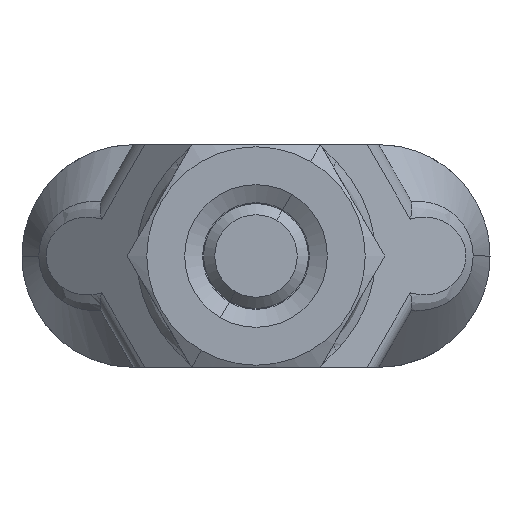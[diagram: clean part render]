
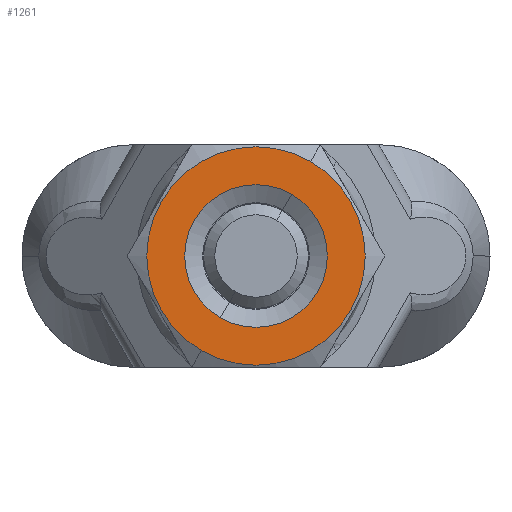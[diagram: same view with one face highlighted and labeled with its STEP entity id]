
A CAD part, front view. The second image highlights one B-rep face of the part: STEP entity #1261.
In plain terms, the highlighted planar face has unit normal (0, -1, 0).
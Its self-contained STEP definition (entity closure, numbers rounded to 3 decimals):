
#1024 = EDGE_LOOP ( 'NONE', ( #1660, #1661 ) ) ;
#1031 = EDGE_LOOP ( 'NONE', ( #1662, #1663 ) ) ;
#1261 = ADVANCED_FACE ( 'NONE', ( #11300, #11288 ), #12099, .T. ) ;
#1660 = ORIENTED_EDGE ( 'NONE', *, *, #1863, .T. ) ;
#1661 = ORIENTED_EDGE ( 'NONE', *, *, #1729, .T. ) ;
#1662 = ORIENTED_EDGE ( 'NONE', *, *, #1730, .F. ) ;
#1663 = ORIENTED_EDGE ( 'NONE', *, *, #1855, .F. ) ;
#1729 = EDGE_CURVE ( 'NONE', #2064, #2065, #11525, .T. ) ;
#1730 = EDGE_CURVE ( 'NONE', #2048, #2046, #11523, .T. ) ;
#1855 = EDGE_CURVE ( 'NONE', #2046, #2048, #11572, .T. ) ;
#1863 = EDGE_CURVE ( 'NONE', #2065, #2064, #11586, .T. ) ;
#2046 = VERTEX_POINT ( 'NONE', #10352 ) ;
#2048 = VERTEX_POINT ( 'NONE', #10368 ) ;
#2064 = VERTEX_POINT ( 'NONE', #10384 ) ;
#2065 = VERTEX_POINT ( 'NONE', #10385 ) ;
#4678 = AXIS2_PLACEMENT_3D ( 'NONE', #12096, #12101, #12102 ) ;
#4732 = AXIS2_PLACEMENT_3D ( 'NONE', #7867, #7868, #7869 ) ;
#4733 = AXIS2_PLACEMENT_3D ( 'NONE', #7870, #7871, #7872 ) ;
#4752 = AXIS2_PLACEMENT_3D ( 'NONE', #8703, #8704, #8705 ) ;
#4754 = AXIS2_PLACEMENT_3D ( 'NONE', #8720, #8721, #8722 ) ;
#7867 = CARTESIAN_POINT ( 'NONE',  ( 0., -5.3, 0. ) ) ;
#7868 = DIRECTION ( 'NONE',  ( 0., -1., 0. ) ) ;
#7869 = DIRECTION ( 'NONE',  ( 0.5, 0., 0.866 ) ) ;
#7870 = CARTESIAN_POINT ( 'NONE',  ( 0., -5.3, 0. ) ) ;
#7871 = DIRECTION ( 'NONE',  ( 0., -1., 0. ) ) ;
#7872 = DIRECTION ( 'NONE',  ( 0.5, 0., 0.866 ) ) ;
#8703 = CARTESIAN_POINT ( 'NONE',  ( 0., -5.3, 0. ) ) ;
#8704 = DIRECTION ( 'NONE',  ( 0., -1., 0. ) ) ;
#8705 = DIRECTION ( 'NONE',  ( 0.5, 0., 0.866 ) ) ;
#8720 = CARTESIAN_POINT ( 'NONE',  ( 0., -5.3, 0. ) ) ;
#8721 = DIRECTION ( 'NONE',  ( 0., -1., 0. ) ) ;
#8722 = DIRECTION ( 'NONE',  ( 0.5, 0., 0.866 ) ) ;
#10352 = CARTESIAN_POINT ( 'NONE',  ( -1.6, -5.3, -2.771 ) ) ;
#10368 = CARTESIAN_POINT ( 'NONE',  ( 1.6, -5.3, 2.771 ) ) ;
#10384 = CARTESIAN_POINT ( 'NONE',  ( -2.45, -5.3, -4.244 ) ) ;
#10385 = CARTESIAN_POINT ( 'NONE',  ( 2.45, -5.3, 4.244 ) ) ;
#11288 = FACE_BOUND ( 'NONE', #1031, .T. ) ;
#11300 = FACE_OUTER_BOUND ( 'NONE', #1024, .T. ) ;
#11523 = CIRCLE ( 'NONE', #4733, 3.2 ) ;
#11525 = CIRCLE ( 'NONE', #4732, 4.9 ) ;
#11572 = CIRCLE ( 'NONE', #4752, 3.2 ) ;
#11586 = CIRCLE ( 'NONE', #4754, 4.9 ) ;
#12096 = CARTESIAN_POINT ( 'NONE',  ( 0., -5.3, 0. ) ) ;
#12099 = PLANE ( 'NONE',  #4678 ) ;
#12101 = DIRECTION ( 'NONE',  ( 0., -1., 0. ) ) ;
#12102 = DIRECTION ( 'NONE',  ( 0.5, 0., 0.866 ) ) ;
